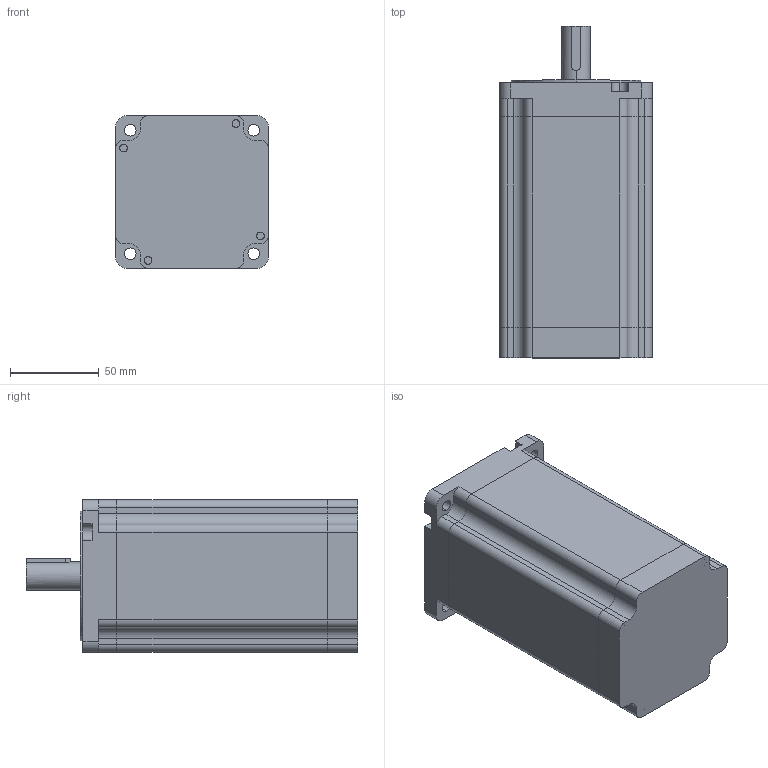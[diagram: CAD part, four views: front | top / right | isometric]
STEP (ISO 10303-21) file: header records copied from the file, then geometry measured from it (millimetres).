
FILE_DESCRIPTION (( 'STEP AP214' ), '1' );
FILE_NAME ('86GP155S404KF32-001.STEP', '2019-09-08T05:43:43', ( 'wimxt.com' ), ( 'wimxt.com' ), 'SwSTEP 2.0', 'SolidWorks 2014', '' );
FILE_SCHEMA (( 'AUTOMOTIVE_DESIGN' ));
Length unit declared in the file: millimetre
Products named in the file (5): 86A12瑩; 86A12傷裔; 86A12菁釱; 86A12隅赽; 86GP155S404KF32-001
Assembly tree (4 placements, depth 2):
  86GP155S404KF32-001
    86A12隅赽
    86A12菁釱
    86A12傷裔
    86A12瑩
Bounding box: 86 x 187.2 x 86 mm (x, y, z)
Volume: 585045.8 mm3; surface area: 128491.4 mm2
Topology: 4 solids, 5 shells, 183 faces, 475 edges, 317 vertices
Faces by surface type: cylinder 98, plane 85
Entity records: 5929 total; most frequent: DIRECTION 1045, CARTESIAN_POINT 1020, ORIENTED_EDGE 950, EDGE_CURVE 475, AXIS2_PLACEMENT_3D 384, VERTEX_POINT 317, VECTOR 277, LINE 277
